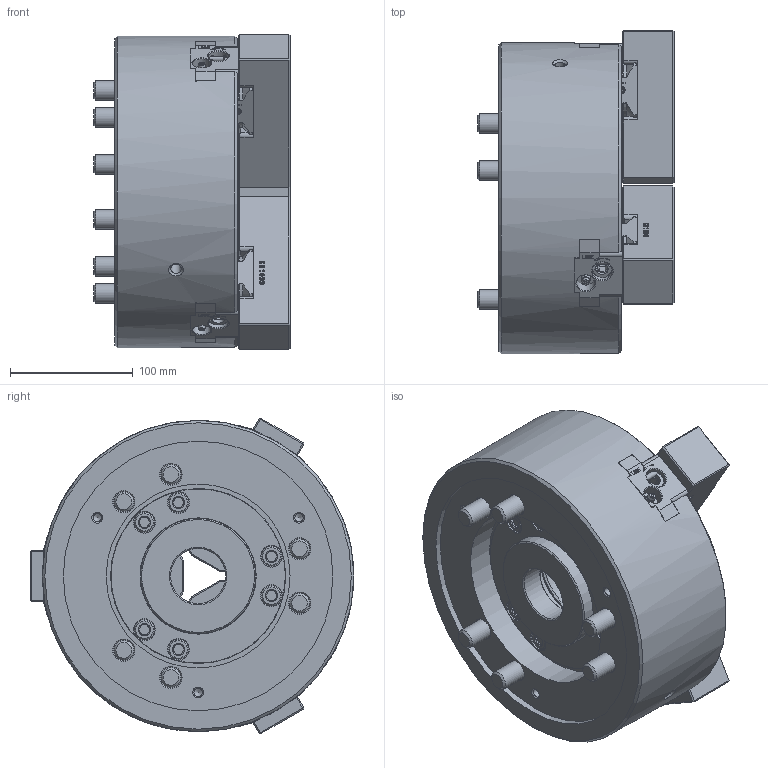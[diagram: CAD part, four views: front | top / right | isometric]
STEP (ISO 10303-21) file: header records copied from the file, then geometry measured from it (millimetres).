
FILE_DESCRIPTION (( 'STEP AP214' ), '1' );
FILE_NAME ('DT1_QB310_OUTSIDE_VIEW_UC.STEP', '2024-05-16T00:58:42', ( '' ), ( '' ), 'SwSTEP 2.0', 'SolidWorks 2022', '' );
FILE_SCHEMA (( 'AUTOMOTIVE_DESIGN' ));
Length unit declared in the file: millimetre
Products named in the file (7): DT1_QB310_M6x10^DT1_QB310_ﾃﾞﾌｫﾙﾄ; DT1_QB310_DRAWNUT^DT1_QB310_ﾃﾞﾌｫﾙﾄ; DT1_QB310_BASE^DT1_QB310_ﾃﾞﾌｫﾙﾄ; DT1_QB310_M16x100^DT1_QB310_ﾃﾞﾌｫﾙﾄ; DT1_QB310_COVER^DT1_QB310_ﾃﾞﾌｫﾙﾄ; DT1_QB310_SOFTJAW^DT1_QB310_ﾃﾞﾌｫﾙﾄ; DT1_QB310_OUTSIDE_VIEW_UC
Assembly tree (15 placements, depth 2):
  DT1_QB310_OUTSIDE_VIEW_UC
    DT1_QB310_SOFTJAW^DT1_QB310_ﾃﾞﾌｫﾙﾄ  x3
    DT1_QB310_DRAWNUT^DT1_QB310_ﾃﾞﾌｫﾙﾄ
    DT1_QB310_COVER^DT1_QB310_ﾃﾞﾌｫﾙﾄ
    DT1_QB310_M6x10^DT1_QB310_ﾃﾞﾌｫﾙﾄ  x3
    DT1_QB310_M16x100^DT1_QB310_ﾃﾞﾌｫﾙﾄ  x6
    DT1_QB310_BASE^DT1_QB310_ﾃﾞﾌｫﾙﾄ
Bounding box: 160 x 264 x 257.29 mm (x, y, z)
Volume: 4895825.8 mm3; surface area: 455512.9 mm2
Topology: 15 solids, 15 shells, 2275 faces, 5883 edges, 3813 vertices
Faces by surface type: plane 1193, bspline 510, cylinder 272, cone 258, torus 36, sphere 6
Full cylindrical faces by diameter (mm): 2 x3, 4.5 x3, 5 x9, 6 x6, 6.6 x3, 6.8 x3, 8 x3, 8.5 x2, 10 x3, 10.001 x9, 10.5 x3, 11 x3, 13 x6, 15 x3, 16 x6, 16.27 x6, 16.3 x3, 16.5 x3, 16.7 x3, 17 x12, 18 x6, 24.33 x6, 25 x6, 45 x1, 75 x2, 79 x2, 80 x2, 86 x1, 94 x2, 142.7 x1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
Entity records: 68520 total; most frequent: CARTESIAN_POINT 29137, ORIENTED_EDGE 8542, DIRECTION 6731, EDGE_CURVE 4271, VERTEX_POINT 2886, VECTOR 2335, LINE 2335, AXIS2_PLACEMENT_3D 2198
